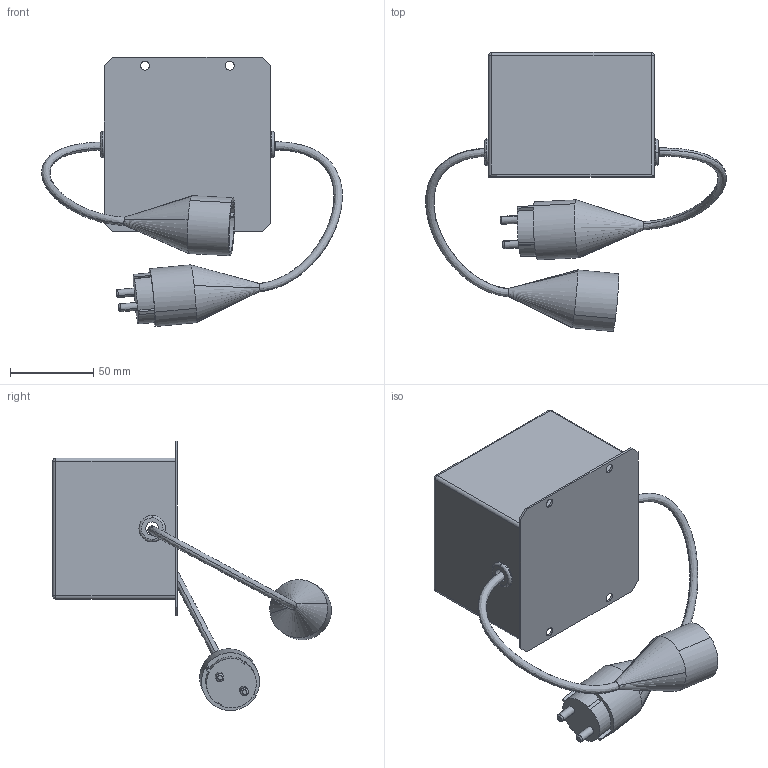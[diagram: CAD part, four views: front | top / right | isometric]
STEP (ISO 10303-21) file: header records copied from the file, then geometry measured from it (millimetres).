
FILE_DESCRIPTION (( 'STEP AP214' ), '1' );
FILE_NAME ('NF-16-1ph-SchuKoPlus.STEP', '2018-07-20T07:56:54', ( '' ), ( '' ), 'SwSTEP 2.0', 'SolidWorks 2018', '' );
FILE_SCHEMA (( 'AUTOMOTIVE_DESIGN' ));
Length unit declared in the file: millimetre
Products named in the file (9): NF-16-1PH-KL3; Grommet_15080_3; NF-16-KL3_2; NF-16-KL3_3_2; NF-16-KL3_3; FLEXKABEL_2; Stecker; Kupplung; NF-16-1ph-SchuKoPlus
Assembly tree (10 placements, depth 4):
  NF-16-1ph-SchuKoPlus
    Kupplung
    Stecker
    FLEXKABEL_2  x2
    NF-16-1PH-KL3
      NF-16-KL3_2
        NF-16-KL3_3
        NF-16-KL3_3_2
      Grommet_15080_3  x2
Bounding box: 181.1 x 167.89 x 162.08 mm (x, y, z)
Volume: 711893.5 mm3; surface area: 90562.6 mm2
Topology: 8 solids, 8 shells, 137 faces, 313 edges, 198 vertices
Faces by surface type: plane 57, cylinder 56, bspline 20, torus 4
Entity records: 4426 total; most frequent: CARTESIAN_POINT 1017, DIRECTION 619, ORIENTED_EDGE 542, EDGE_CURVE 271, AXIS2_PLACEMENT_3D 240, VERTEX_POINT 174, LINE 139, VECTOR 139
